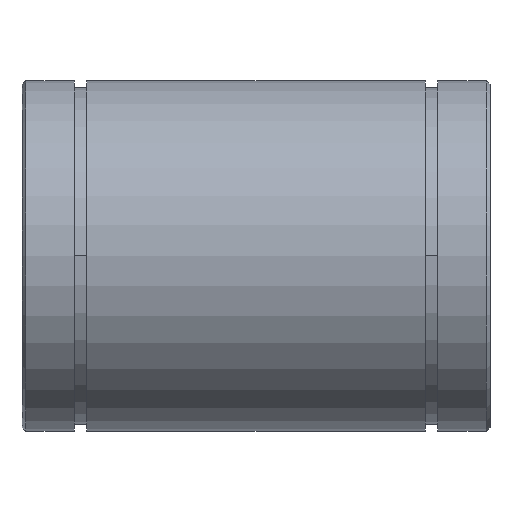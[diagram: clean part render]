
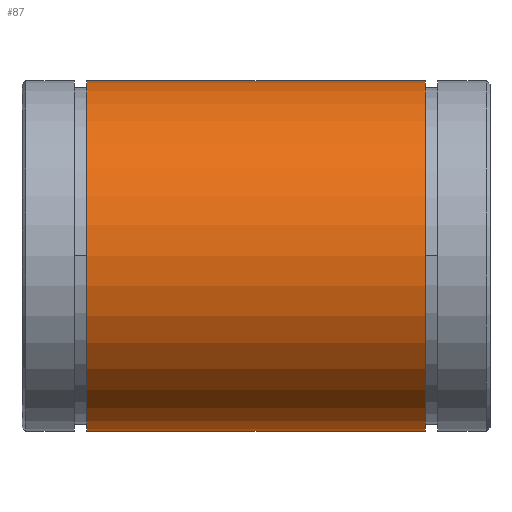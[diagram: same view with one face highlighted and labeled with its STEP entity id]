
A CAD part, top view. The second image highlights one B-rep face of the part: STEP entity #87.
In plain terms, the highlighted cylindrical face has radius 37.5 mm (diameter 75 mm), a partial arc.
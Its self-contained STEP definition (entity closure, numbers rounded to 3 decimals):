
#9 = ORIENTED_EDGE ( 'NONE', *, *, #625, .F. ) ;
#35 = AXIS2_PLACEMENT_3D ( 'NONE', #437, #594, #677 ) ;
#43 = VERTEX_POINT ( 'NONE', #532 ) ;
#48 = ORIENTED_EDGE ( 'NONE', *, *, #333, .T. ) ;
#73 = DIRECTION ( 'NONE',  ( 1., 0., 0. ) ) ;
#87 = ADVANCED_FACE ( 'NONE', ( #748 ), #239, .T. ) ;
#102 = CARTESIAN_POINT ( 'NONE',  ( 50., 0., 0. ) ) ;
#127 = DIRECTION ( 'NONE',  ( 0., 1., 0. ) ) ;
#167 = ORIENTED_EDGE ( 'NONE', *, *, #757, .T. ) ;
#179 = AXIS2_PLACEMENT_3D ( 'NONE', #934, #343, #127 ) ;
#223 = CIRCLE ( 'NONE', #179, 37.5 ) ;
#233 = AXIS2_PLACEMENT_3D ( 'NONE', #102, #596, #734 ) ;
#239 = CYLINDRICAL_SURFACE ( 'NONE', #233, 37.5 ) ;
#273 = CARTESIAN_POINT ( 'NONE',  ( 50., 37.5, 0. ) ) ;
#311 = CARTESIAN_POINT ( 'NONE',  ( 13.85, 37.5, 0. ) ) ;
#333 = EDGE_CURVE ( 'NONE', #43, #741, #409, .T. ) ;
#343 = DIRECTION ( 'NONE',  ( -1., 0., 0. ) ) ;
#353 = LINE ( 'NONE', #273, #898 ) ;
#409 = LINE ( 'NONE', #704, #862 ) ;
#437 = CARTESIAN_POINT ( 'NONE',  ( 13.85, 0., 0. ) ) ;
#457 = CARTESIAN_POINT ( 'NONE',  ( 86.15, -37.5, 0. ) ) ;
#471 = VERTEX_POINT ( 'NONE', #895 ) ;
#532 = CARTESIAN_POINT ( 'NONE',  ( 13.85, -37.5, 0. ) ) ;
#594 = DIRECTION ( 'NONE',  ( 1., 0., 0. ) ) ;
#596 = DIRECTION ( 'NONE',  ( 1., 0., 0. ) ) ;
#625 = EDGE_CURVE ( 'NONE', #730, #471, #353, .T. ) ;
#652 = EDGE_LOOP ( 'NONE', ( #167, #48, #675, #9 ) ) ;
#675 = ORIENTED_EDGE ( 'NONE', *, *, #917, .T. ) ;
#677 = DIRECTION ( 'NONE',  ( 0., 1., 0. ) ) ;
#704 = CARTESIAN_POINT ( 'NONE',  ( 50., -37.5, 0. ) ) ;
#730 = VERTEX_POINT ( 'NONE', #311 ) ;
#734 = DIRECTION ( 'NONE',  ( 0., 1., 0. ) ) ;
#741 = VERTEX_POINT ( 'NONE', #457 ) ;
#748 = FACE_OUTER_BOUND ( 'NONE', #652, .T. ) ;
#757 = EDGE_CURVE ( 'NONE', #730, #43, #927, .T. ) ;
#862 = VECTOR ( 'NONE', #926, 1000. ) ;
#895 = CARTESIAN_POINT ( 'NONE',  ( 86.15, 37.5, 0. ) ) ;
#898 = VECTOR ( 'NONE', #73, 1000. ) ;
#917 = EDGE_CURVE ( 'NONE', #741, #471, #223, .T. ) ;
#926 = DIRECTION ( 'NONE',  ( 1., 0., 0. ) ) ;
#927 = CIRCLE ( 'NONE', #35, 37.5 ) ;
#934 = CARTESIAN_POINT ( 'NONE',  ( 86.15, 0., 0. ) ) ;
